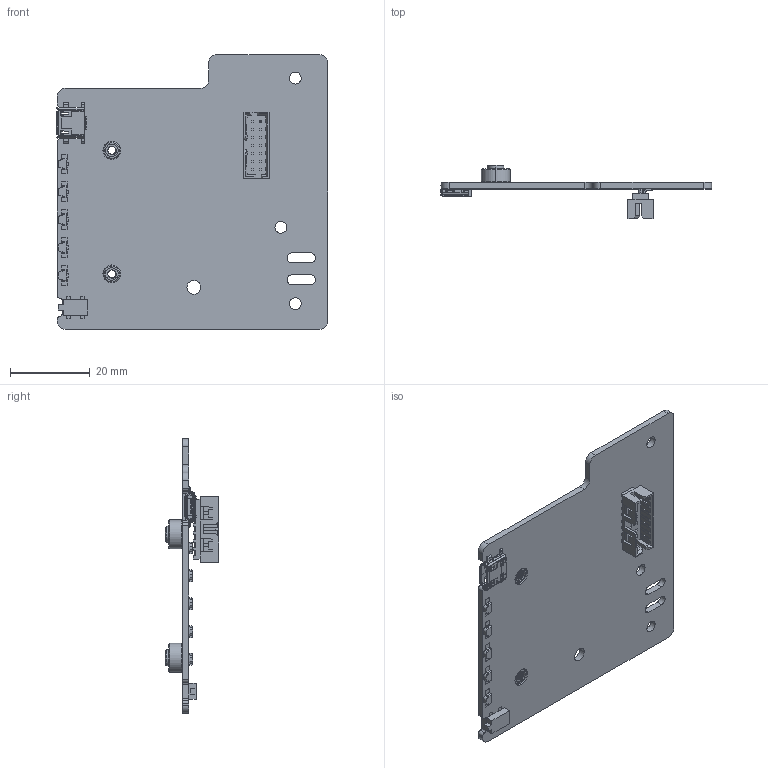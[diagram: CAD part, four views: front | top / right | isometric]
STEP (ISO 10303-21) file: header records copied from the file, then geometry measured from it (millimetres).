
FILE_DESCRIPTION((''),'2;1');
FILE_NAME('03_LED_PCB_ASM_CSGR_ASM','2019-02-13T',('calvi'),(''),'CREO PARAMETRIC BY PTC INC, 2015480','CREO PARAMETRIC BY PTC INC, 2015480','');
FILE_SCHEMA(('CONFIG_CONTROL_DESIGN'));
Products named in the file (9): 03_LED_PCBA_CSGR; LED-SMT-LITEON; 82-950-26-043-01-RL_X01_-201802; SUA-560MEB-L2S-TR; PAD-STANDOFF; HS5507F-R; EVQ-PSG02K-PANASONIC-X1; 2UB2021-000111F_UPDATED_071718_; 03_LED_PCB_ASM_CSGR_ASM
Assembly tree (14 placements, depth 2):
  03_LED_PCB_ASM_CSGR_ASM
    03_LED_PCBA_CSGR
    LED-SMT-LITEON  x5
    82-950-26-043-01-RL_X01_-201802  x2
    SUA-560MEB-L2S-TR
    PAD-STANDOFF  x2
    HS5507F-R
    EVQ-PSG02K-PANASONIC-X1
    2UB2021-000111F_UPDATED_071718_
Bounding box: 68.13 x 13.46 x 68.92 mm (x, y, z)
Volume: 7477.2 mm3; surface area: 10967.8 mm2
Topology: 12 solids, 12 shells, 1784 faces, 4921 edges, 3175 vertices
Faces by surface type: plane 1196, cylinder 524, cone 38, extrusion 8, torus 8, bspline 6, sphere 4
Entity records: 71503 total; most frequent: CARTESIAN_POINT 14647, ORIENTED_EDGE 9246, DIRECTION 8584, EDGE_CURVE 4623, PRESENTATION_STYLE_ASSIGNMENT 4054, STYLED_ITEM 4015, CURVE_STYLE 3753, VECTOR 3528
